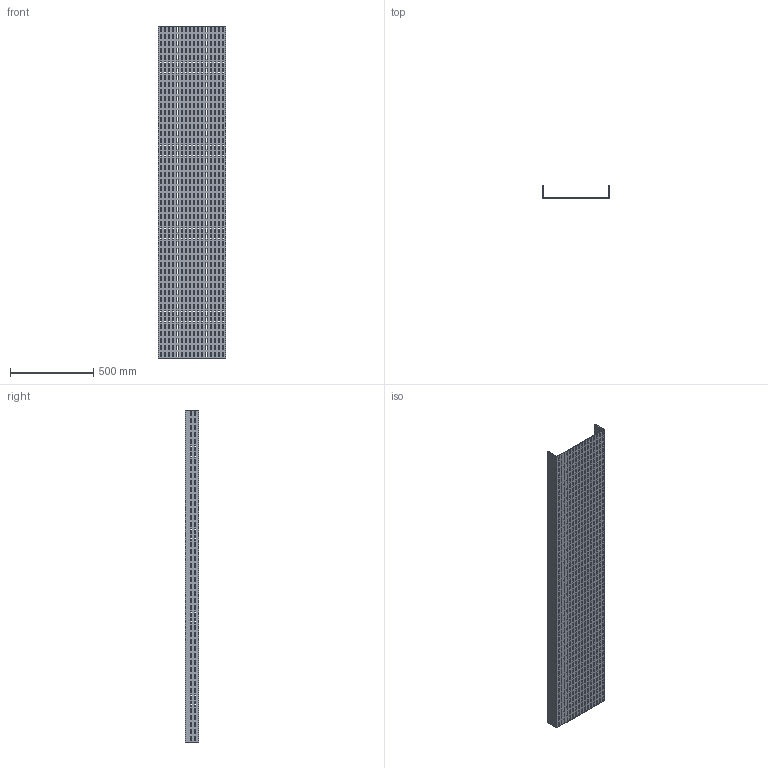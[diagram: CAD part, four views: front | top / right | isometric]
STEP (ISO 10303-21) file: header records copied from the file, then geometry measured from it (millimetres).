
FILE_DESCRIPTION (( 'STEP AP214' ), '1' );
FILE_NAME ('01F2C400.step', '2025-02-21T13:26:01', ( '' ), ( '' ), 'SwSTEP 2.0', 'SolidWorks 2023', '' );
FILE_SCHEMA (( 'AUTOMOTIVE_DESIGN' ));
Products named in the file (1): 01F2C400
Bounding box: 404 x 79 x 2000 mm (x, y, z)
Volume: 3297000 mm3; surface area: 2116925 mm2
Topology: 1 solids, 1 shells, 3850 faces, 11544 edges, 7696 vertices
Faces by surface type: plane 3850
Entity records: 130871 total; most frequent: CARTESIAN_POINT 23091, ORIENTED_EDGE 23088, DIRECTION 19246, LINE 11544, EDGE_CURVE 11544, VECTOR 11544, VERTEX_POINT 7696, EDGE_LOOP 5770
